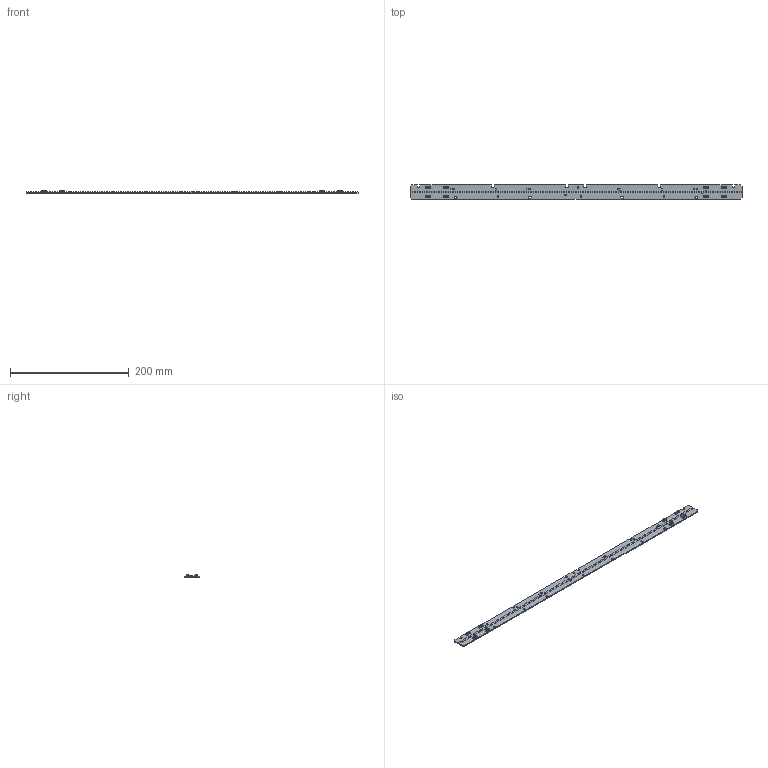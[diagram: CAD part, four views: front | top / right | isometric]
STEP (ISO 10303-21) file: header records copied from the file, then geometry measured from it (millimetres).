
FILE_DESCRIPTION((''),'2;1');
FILE_NAME('16208898_LLE-TW-24X560-LV-PRE3','2022-01-13T08:38:22',('Bernhard.Fink'),(''),'CREO PARAMETRIC BY PTC INC, 2021184','CREO PARAMETRIC BY PTC INC, 2021184','');
FILE_SCHEMA(('CONFIG_CONTROL_DESIGN'));
Products named in the file (1): 16208898_LLE-TW-24X560-LV-PRE3
Bounding box: 559 x 23.6 x 4.15 mm (x, y, z)
Volume: 21917.8 mm3; surface area: 30357.1 mm2
Topology: 1 solids, 9 shells, 3554 faces, 9914 edges, 6300 vertices
Faces by surface type: plane 2044, cylinder 1070, bspline 328, sphere 56, cone 32, torus 24
Entity records: 192937 total; most frequent: CARTESIAN_POINT 105329, ORIENTED_EDGE 19268, DIRECTION 16344, EDGE_CURVE 9858, VECTOR 6346, LINE 6346, VERTEX_POINT 6300, AXIS2_PLACEMENT_3D 4999
